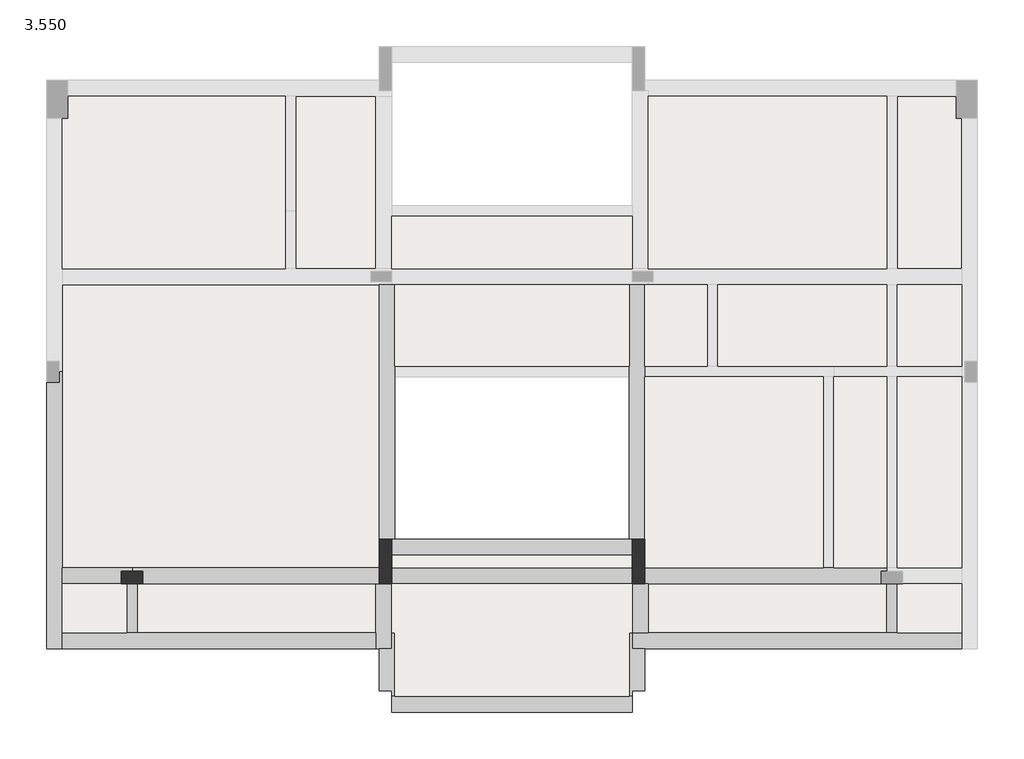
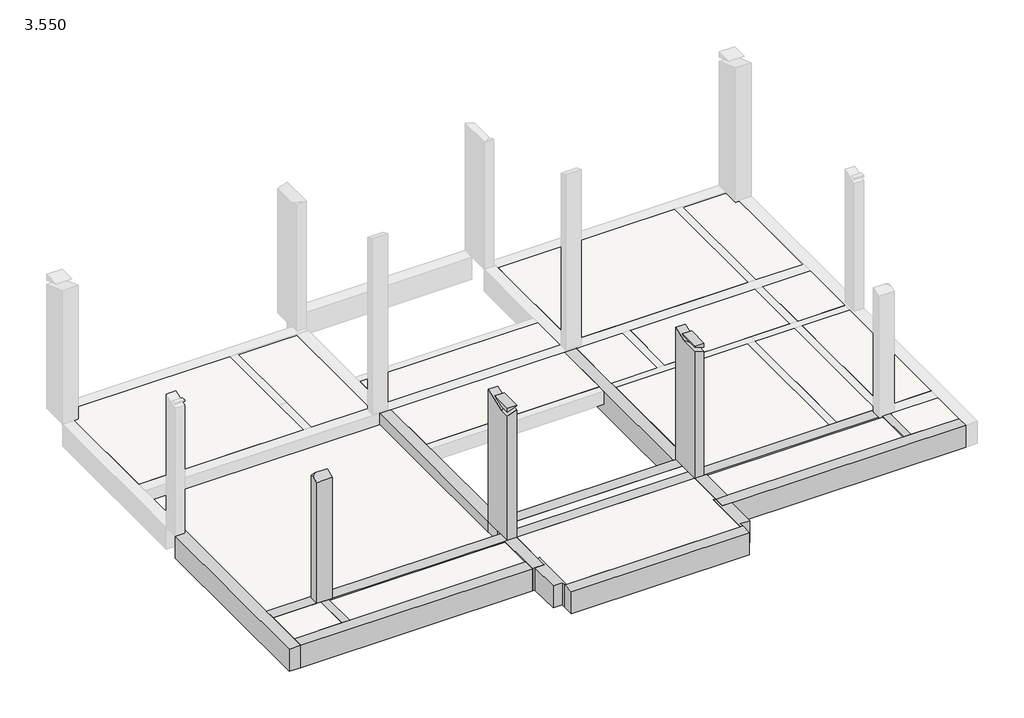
# One storey, part 1 of 2: 19 slabs, 17 beams, 3 columns.
"""IFC4 building model written with IfcOpenShell, lengths in millimetres."""

from ifc_helpers import new_model, si_unit, frame, origin, place, context, project, spatial, polyline, outline, extrude, faceted_brep, element, save

model = new_model("IFC4")

# Units and contexts
model_context = context("Model", 3, world=origin())
ifc_project = project(units=[si_unit("LENGTHUNIT", "METRE", prefix="MILLI")], contexts=[model_context])

# Site, building, storey
site = spatial("IfcSite", under=ifc_project)
building = spatial("IfcBuilding", under=site)
storey = spatial("IfcBuildingStorey", under=building, Name="3.550", Elevation=3550.0)

# Beams
placement = place(None, origin())
element("IfcBeam", 1, ObjectType="混凝土 - 矩形梁 : 200 x 350mm", at=placement, inside=storey, context=model_context, shape_type="Brep", body=[
    faceted_brep([(-11718.804129, -3939.7578909, 3550.0), (-11718.804129, -3939.7578909, 3520.0), (-11718.804129, -3939.7578909, 3420.0), (-11718.804129, -3939.7578909, 3200.0), (-11918.804129, -3939.7578909, 3200.0), (-11918.804129, -3939.7578909, 3450.0), (-11918.804129, -3939.7578909, 3550.0), (-11918.804129, -4869.7578909, 3550.0), (-11718.804129, -4869.7578909, 3550.0), (-11918.804129, -4869.7578909, 3200.0), (-11918.804129, -4869.7578909, 3450.0), (-11718.804129, -4869.7578909, 3200.0), (-11718.804129, -4869.7578909, 3520.0), (-11718.804129, -4869.7578909, 3420.0)], [[[0, 1, 2, 3, 4, 5, 6]], [[0, 6, 7, 8]], [[6, 5, 4, 9, 10, 7]], [[4, 3, 11, 9]], [[3, 2, 1, 0, 8, 12, 13, 11]], [[8, 7, 10, 9, 11, 13, 12]]]),
])
element("IfcBeam", 2, ObjectType="混凝土 - 矩形梁 : 200 x 350mm", at=placement, inside=storey, context=model_context, shape_type="Brep", body=[
    faceted_brep([(2681.195871, -3939.7578909, 3550.0), (2481.195871, -3939.7578909, 3550.0), (2481.195871, -4869.7578909, 3550.0), (2681.195871, -4869.7578909, 3550.0), (2681.195871, -3939.7578909, 3200.0), (2681.195871, -3939.7578909, 3450.0), (2681.195871, -4869.7578909, 3450.0), (2681.195871, -4869.7578909, 3200.0), (2481.195871, -3939.7578909, 3200.0), (2481.195871, -4869.7578909, 3200.0), (2481.195871, -3939.7578909, 3520.0), (2481.195871, -3939.7578909, 3420.0), (2481.195871, -4869.7578909, 3420.0), (2481.195871, -4869.7578909, 3520.0)], [[[0, 1, 2, 3]], [[4, 5, 0, 3, 6, 7]], [[8, 4, 7, 9]], [[1, 10, 11, 8, 9, 12, 13, 2]], [[1, 0, 5, 4, 8, 11, 10]], [[3, 2, 13, 12, 9, 7, 6]]]),
])
element("IfcBeam", 3, ObjectType="混凝土 - 矩形梁 : 300 x 600mm", at=placement, inside=storey, context=model_context, shape_type="Brep", body=[
    faceted_brep([(-2338.804129, -4869.7578909, 3550.0), (-2338.804129, -5169.7578909, 3550.0), (-2098.804129, -5169.7578909, 3550.0), (3901.195871, -5169.7578909, 3550.0), (3901.195871, -4869.7578909, 3550.0), (2681.195871, -4869.7578909, 3550.0), (2481.195871, -4869.7578909, 3550.0), (-2038.804129, -4869.7578909, 3550.0), (-2338.804129, -4869.7578909, 2950.0), (3901.195871, -4869.7578909, 3450.0), (3901.195871, -4869.7578909, 2950.0), (-2038.804129, -4869.7578909, 2950.0), (-2338.804129, -5169.7578909, 2950.0), (3901.195871, -5169.7578909, 2950.0), (-2098.804129, -5169.7578909, 2950.0)], [[[0, 1, 2, 3, 4, 5, 6, 7]], [[8, 0, 7, 6, 5, 4, 9, 10, 11]], [[12, 8, 11, 10, 13, 14]], [[1, 12, 14, 13, 3, 2]], [[4, 3, 13, 10, 9]], [[1, 0, 8, 12]]]),
])
element("IfcBeam", 4, ObjectType="混凝土 - 矩形梁 : 300 x 600mm", at=placement, inside=storey, context=model_context, shape_type="Brep", body=[
    faceted_brep([(-13138.804129, -5169.7578909, 3550.0), (-13138.804129, -4869.7578909, 3550.0), (-13138.804129, -3939.7578909, 3550.0), (-13138.804129, -3639.7578909, 3550.0), (-13138.804129, 80.2421091, 3550.0), (-13198.804129, 80.2421091, 3550.0), (-13198.804129, -119.7578909, 3550.0), (-13438.804129, -119.7578909, 3550.0), (-13438.804129, -5169.7578909, 3550.0), (-13138.804129, -5169.7578909, 2950.0), (-13138.804129, -4869.7578909, 2950.0), (-13138.804129, -3939.7578909, 2950.0), (-13138.804129, -3639.7578909, 2950.0), (-13138.804129, 80.2421091, 2950.0), (-13438.804129, -5169.7578909, 2950.0), (-13438.804129, -119.7578909, 2950.0), (-13198.804129, -119.7578909, 2950.0), (-13198.804129, 80.2421091, 2950.0)], [[[0, 1, 2, 3, 4, 5, 6, 7, 8]], [[4, 3, 2, 1, 0, 9, 10, 11, 12, 13]], [[13, 12, 11, 10, 9, 14, 15, 16, 17]], [[14, 8, 7, 15]], [[0, 8, 14, 9]], [[16, 6, 5, 17]], [[6, 16, 15, 7]], [[4, 13, 17, 5]]]),
])
element("IfcBeam", 5, ObjectType="混凝土 - 矩形梁 : 300 x 600mm", at=placement, inside=storey, context=model_context, shape_type="Brep", body=[
    faceted_brep([(-2098.804129, -3639.7578909, 3550.0), (-2098.804129, -3939.7578909, 3550.0), (-2038.804129, -3939.7578909, 3550.0), (2381.195871, -3939.7578909, 3550.0), (2381.195871, -3699.7578909, 3550.0), (2481.195871, -3699.7578909, 3550.0), (2481.195871, -3639.7578909, 3550.0), (1481.195871, -3639.7578909, 3550.0), (1281.195871, -3639.7578909, 3550.0), (-2098.804129, -3639.7578909, 2950.0), (-2098.804129, -3639.7578909, 3450.0), (2481.195871, -3639.7578909, 3450.0), (2481.195871, -3639.7578909, 2950.0), (-2098.804129, -3939.7578909, 2950.0), (2481.195871, -3699.7578909, 2950.0), (2381.195871, -3699.7578909, 2950.0), (2381.195871, -3939.7578909, 2950.0), (-2038.804129, -3939.7578909, 2950.0)], [[[0, 1, 2, 3, 4, 5, 6, 7, 8]], [[9, 10, 0, 8, 7, 6, 11, 12]], [[13, 9, 12, 14, 15, 16, 17]], [[1, 13, 17, 16, 3, 2]], [[1, 0, 10, 9, 13]], [[4, 15, 14, 5]], [[15, 4, 3, 16]], [[12, 11, 6, 5, 14]]]),
])
element("IfcBeam", 6, ObjectType="混凝土 - 矩形梁 : 300 x 600mm", at=placement, inside=storey, context=model_context, shape_type="Brep", body=[
    faceted_brep([(-6898.804129, -3399.7578909, 3550.0), (-6898.804129, -3099.7578909, 3550.0), (-6898.804129, -3099.7578909, 2950.0), (-6898.804129, -3399.7578909, 2950.0), (-6898.804129, -3399.7578909, 3450.0), (-2338.804129, -3399.7578909, 3550.0), (-2338.804129, -3099.7578909, 3550.0), (-2398.804129, -3099.7578909, 3550.0), (-6838.804129, -3099.7578909, 3550.0), (-2338.804129, -3099.7578909, 2950.0), (-2398.804129, -3099.7578909, 2950.0), (-6838.804129, -3099.7578909, 2950.0), (-2338.804129, -3399.7578909, 2950.0), (-2338.804129, -3399.7578909, 3450.0)], [[[0, 1, 2, 3, 4]], [[1, 0, 5, 6, 7, 8]], [[2, 1, 8, 7, 6, 9, 10, 11]], [[3, 2, 11, 10, 9, 12]], [[0, 4, 3, 12, 13, 5]], [[5, 13, 12, 9, 6]]]),
])
element("IfcBeam", 7, ObjectType="混凝土 - 矩形梁 : 300 x 600mm", at=placement, inside=storey, context=model_context, shape_type="Brep", body=[
    faceted_brep([(-7138.804129, -3639.7578909, 3550.0), (-11818.804129, -3639.7578909, 3550.0), (-11818.804129, -3699.7578909, 3550.0), (-11618.804129, -3699.7578909, 3550.0), (-11618.804129, -3939.7578909, 3550.0), (-7198.804129, -3939.7578909, 3550.0), (-7138.804129, -3939.7578909, 3550.0), (-11818.804129, -3639.7578909, 2950.0), (-7138.804129, -3639.7578909, 3250.0), (-7138.804129, -3639.7578909, 3090.0), (-7138.804129, -3639.7578909, 2950.0), (-7138.804129, -3939.7578909, 2950.0), (-7198.804129, -3939.7578909, 2950.0), (-11618.804129, -3939.7578909, 2950.0), (-11618.804129, -3699.7578909, 2950.0), (-11818.804129, -3699.7578909, 2950.0)], [[[0, 1, 2, 3, 4, 5, 6]], [[7, 1, 0, 8, 9, 10]], [[7, 10, 11, 12, 13, 14, 15]], [[11, 6, 5, 4, 13, 12]], [[1, 7, 15, 2]], [[0, 6, 11, 10, 9, 8]], [[14, 3, 2, 15]], [[3, 14, 13, 4]]]),
])
element("IfcBeam", 8, ObjectType="混凝土 - 矩形梁 : 300 x 600mm", at=placement, inside=storey, context=model_context, shape_type="Brep", body=[
    faceted_brep([(-13138.804129, -3639.7578909, 3550.0), (-13138.804129, -3939.7578909, 3550.0), (-12018.804129, -3939.7578909, 3550.0), (-12018.804129, -3699.7578909, 3550.0), (-11818.804129, -3699.7578909, 3550.0), (-11818.804129, -3639.7578909, 3550.0), (-13138.804129, -3639.7578909, 2950.0), (-13138.804129, -3639.7578909, 3090.0), (-13138.804129, -3639.7578909, 3250.0), (-11818.804129, -3639.7578909, 2950.0), (-13138.804129, -3939.7578909, 2950.0), (-11818.804129, -3699.7578909, 2950.0), (-12018.804129, -3699.7578909, 2950.0), (-12018.804129, -3939.7578909, 2950.0), (-13138.804129, -3939.7578909, 3450.0)], [[[0, 1, 2, 3, 4, 5]], [[6, 7, 8, 0, 5, 9]], [[10, 6, 9, 11, 12, 13]], [[1, 14, 10, 13, 2]], [[1, 0, 8, 7, 6, 10, 14]], [[9, 5, 4, 11]], [[3, 12, 11, 4]], [[12, 3, 2, 13]]]),
])
element("IfcBeam", 9, ObjectType="混凝土 - 矩形梁 : 300 x 600mm", at=placement, inside=storey, context=model_context, shape_type="Brep", body=[
    faceted_brep([(-6838.804129, -3099.7578909, 3550.0), (-6898.804129, -3099.7578909, 3550.0), (-7138.804129, -3099.7578909, 3550.0), (-7138.804129, -3099.7578909, 2950.0), (-6898.804129, -3099.7578909, 2950.0), (-6838.804129, -3099.7578909, 2950.0), (-6838.804129, -19.7578909, 3550.0), (-6838.804129, 180.2421091, 3550.0), (-6838.804129, 1730.2421091, 3550.0), (-6898.804129, 1730.2421091, 3550.0), (-7138.804129, 1730.2421091, 3550.0), (-7138.804129, 1730.2421091, 3250.0), (-7138.804129, 1730.2421091, 3090.0), (-7138.804129, 1730.2421091, 2950.0), (-6898.804129, 1730.2421091, 2950.0), (-6838.804129, 1730.2421091, 2950.0), (-6838.804129, 1730.2421091, 3450.0)], [[[0, 1, 2, 3, 4, 5]], [[2, 1, 0, 6, 7, 8, 9, 10]], [[3, 2, 10, 11, 12, 13]], [[5, 4, 3, 13, 14, 15]], [[0, 5, 15, 16, 8, 7, 6]], [[10, 9, 8, 16, 15, 14, 13, 12, 11]]]),
])
element("IfcBeam", 10, ObjectType="混凝土 - 矩形梁 : 300 x 600mm", at=placement, inside=storey, context=model_context, shape_type="Brep", body=[
    faceted_brep([(-2098.804129, -3099.7578909, 3550.0), (-2338.804129, -3099.7578909, 3550.0), (-2398.804129, -3099.7578909, 3550.0), (-2398.804129, -3099.7578909, 2950.0), (-2338.804129, -3099.7578909, 2950.0), (-2098.804129, -3099.7578909, 2950.0), (-2098.804129, -19.7578909, 3550.0), (-2098.804129, 180.2421091, 3550.0), (-2098.804129, 1730.2421091, 3550.0), (-2398.804129, 1730.2421091, 3550.0), (-2398.804129, 180.2421091, 3550.0), (-2398.804129, -19.7578909, 3550.0), (-2098.804129, 1730.2421091, 2950.0), (-2098.804129, 1730.2421091, 3450.0), (-2398.804129, 1730.2421091, 2950.0), (-2398.804129, 1730.2421091, 3450.0)], [[[0, 1, 2, 3, 4, 5]], [[2, 1, 0, 6, 7, 8, 9, 10, 11]], [[0, 5, 12, 13, 8, 7, 6]], [[5, 4, 3, 14, 12]], [[3, 2, 11, 10, 9, 15, 14]], [[9, 8, 13, 12, 14, 15]]]),
])
element("IfcBeam", 11, ObjectType="混凝土 - 矩形梁 : 300 x 600mm", at=placement, inside=storey, context=model_context, shape_type="Brep", body=[
    faceted_brep([(-7198.804129, -5169.7578909, 3550.0), (-7138.804129, -5169.7578909, 3550.0), (-6898.804129, -5169.7578909, 3550.0), (-6898.804129, -4869.7578909, 3550.0), (-6898.804129, -3939.7578909, 3550.0), (-7138.804129, -3939.7578909, 3550.0), (-7198.804129, -3939.7578909, 3550.0), (-7198.804129, -4869.7578909, 3550.0), (-6898.804129, -5169.7578909, 2950.0), (-6898.804129, -4869.7578909, 2950.0), (-6898.804129, -3939.7578909, 2950.0), (-6898.804129, -3939.7578909, 3450.0), (-7138.804129, -5169.7578909, 2950.0), (-7198.804129, -5169.7578909, 2950.0), (-7198.804129, -4869.7578909, 2950.0), (-7198.804129, -3939.7578909, 2950.0), (-7138.804129, -3939.7578909, 2950.0), (-7198.804129, -3939.7578909, 3520.0), (-7198.804129, -3939.7578909, 3420.0)], [[[0, 1, 2, 3, 4, 5, 6, 7]], [[2, 8, 9, 10, 11, 4, 3]], [[8, 12, 13, 14, 15, 16, 10, 9]], [[13, 0, 7, 6, 17, 18, 15, 14]], [[6, 5, 4, 11, 10, 16, 15, 18, 17]], [[2, 1, 0, 13, 12, 8]]]),
])
element("IfcBeam", 12, ObjectType="混凝土 - 矩形梁 : 300 x 600mm", at=placement, inside=storey, context=model_context, shape_type="Brep", body=[
    faceted_brep([(-2038.804129, -3939.7578909, 3550.0), (-2098.804129, -3939.7578909, 3550.0), (-2338.804129, -3939.7578909, 3550.0), (-2338.804129, -4869.7578909, 3550.0), (-2038.804129, -4869.7578909, 3550.0), (-2038.804129, -3939.7578909, 2950.0), (-2038.804129, -3939.7578909, 3420.0), (-2038.804129, -3939.7578909, 3520.0), (-2038.804129, -4869.7578909, 3520.0), (-2038.804129, -4869.7578909, 3420.0), (-2038.804129, -4869.7578909, 2950.0), (-2338.804129, -3939.7578909, 2950.0), (-2098.804129, -3939.7578909, 2950.0), (-2338.804129, -4869.7578909, 2950.0), (-2338.804129, -3939.7578909, 3450.0), (-2338.804129, -4869.7578909, 3450.0)], [[[0, 1, 2, 3, 4]], [[5, 6, 7, 0, 4, 8, 9, 10]], [[11, 12, 5, 10, 13]], [[2, 14, 11, 13, 15, 3]], [[2, 1, 0, 7, 6, 5, 12, 11, 14]], [[4, 3, 15, 13, 10, 9, 8]]]),
])
element("IfcBeam", 13, ObjectType="混凝土 - 矩形梁 : 300 x 600mm", at=placement, inside=storey, context=model_context, shape_type="Brep", body=[
    faceted_brep([(-2338.804129, -6069.7578909, 3550.0), (-2338.804129, -6369.7578909, 3550.0), (-2338.804129, -6369.7578909, 2950.0), (-2338.804129, -6069.7578909, 2950.0), (-6898.804129, -6069.7578909, 3550.0), (-6898.804129, -6069.7578909, 2950.0), (-6898.804129, -6369.7578909, 2950.0), (-6898.804129, -6369.7578909, 3550.0), (-2398.804129, -6069.7578909, 3550.0), (-6838.804129, -6069.7578909, 3550.0), (-6838.804129, -6069.7578909, 2950.0), (-2398.804129, -6069.7578909, 2950.0)], [[[0, 1, 2, 3]], [[4, 5, 6, 7]], [[1, 0, 8, 9, 4, 7]], [[2, 1, 7, 6]], [[3, 2, 6, 5, 10, 11]], [[0, 3, 11, 10, 5, 4, 9, 8]]]),
])
element("IfcBeam", 14, ObjectType="混凝土 - 矩形梁 : 300 x 600mm", at=placement, inside=storey, context=model_context, shape_type="Brep", body=[
    faceted_brep([(-2098.804129, -5169.7578909, 3550.0), (-2338.804129, -5169.7578909, 3550.0), (-2338.804129, -4869.7578909, 3550.0), (-2398.804129, -4869.7578909, 3550.0), (-2398.804129, -6069.7578909, 3550.0), (-2338.804129, -6069.7578909, 3550.0), (-2338.804129, -5969.7578909, 3550.0), (-2098.804129, -5969.7578909, 3550.0), (-2098.804129, -5169.7578909, 2950.0), (-2098.804129, -5969.7578909, 2950.0), (-2338.804129, -5169.7578909, 2950.0), (-2338.804129, -5969.7578909, 2950.0), (-2338.804129, -6069.7578909, 2950.0), (-2398.804129, -6069.7578909, 2950.0), (-2398.804129, -4869.7578909, 2950.0), (-2338.804129, -4869.7578909, 2950.0), (-2398.804129, -4869.7578909, 3450.0), (-2398.804129, -6069.7578909, 3450.0), (-2338.804129, -4869.7578909, 3450.0)], [[[0, 1, 2, 3, 4, 5, 6, 7]], [[8, 0, 7, 9]], [[10, 8, 9, 11, 12, 13, 14, 15]], [[4, 3, 16, 14, 13, 17]], [[3, 2, 18, 15, 14, 16]], [[1, 0, 8, 10]], [[5, 4, 17, 13, 12]], [[11, 6, 5, 12]], [[6, 11, 9, 7]], [[1, 10, 15, 18, 2]]]),
])
element("IfcBeam", 15, ObjectType="混凝土 - 矩形梁 : 300 x 600mm", at=placement, inside=storey, context=model_context, shape_type="Brep", body=[
    faceted_brep([(-6898.804129, -6069.7578909, 3550.0), (-6838.804129, -6069.7578909, 3550.0), (-6838.804129, -4869.7578909, 3550.0), (-6898.804129, -4869.7578909, 3550.0), (-6898.804129, -5169.7578909, 3550.0), (-7138.804129, -5169.7578909, 3550.0), (-7138.804129, -5969.7578909, 3550.0), (-6898.804129, -5969.7578909, 3550.0), (-6838.804129, -6069.7578909, 3450.0), (-6838.804129, -6069.7578909, 2950.0), (-6838.804129, -4869.7578909, 2950.0), (-6838.804129, -4869.7578909, 3450.0), (-6898.804129, -6069.7578909, 2950.0), (-6898.804129, -5969.7578909, 2950.0), (-7138.804129, -5969.7578909, 2950.0), (-7138.804129, -5169.7578909, 2950.0), (-6898.804129, -5169.7578909, 2950.0), (-6898.804129, -4869.7578909, 2950.0), (-6898.804129, -4869.7578909, 3450.0)], [[[0, 1, 2, 3, 4, 5, 6, 7]], [[2, 1, 8, 9, 10, 11]], [[9, 12, 13, 14, 15, 16, 17, 10]], [[14, 6, 5, 15]], [[3, 2, 11, 10, 17, 18]], [[1, 0, 12, 9, 8]], [[7, 13, 12, 0]], [[13, 7, 6, 14]], [[5, 4, 16, 15]], [[16, 4, 3, 18, 17]]]),
])
element("IfcBeam", 16, ObjectType="混凝土 - 矩形梁 : 300 x 600mm", at=placement, inside=storey, context=model_context, shape_type="Brep", body=[
    faceted_brep([(-13138.804129, -4869.7578909, 3550.0), (-13138.804129, -5169.7578909, 3550.0), (-7198.804129, -5169.7578909, 3550.0), (-7198.804129, -4869.7578909, 3550.0), (-11718.804129, -4869.7578909, 3550.0), (-11918.804129, -4869.7578909, 3550.0), (-13138.804129, -4869.7578909, 2950.0), (-13138.804129, -4869.7578909, 3450.0), (-7198.804129, -4869.7578909, 3520.0), (-7198.804129, -4869.7578909, 3420.0), (-7198.804129, -4869.7578909, 2950.0), (-13138.804129, -5169.7578909, 2950.0), (-7198.804129, -5169.7578909, 2950.0)], [[[0, 1, 2, 3, 4, 5]], [[6, 7, 0, 5, 4, 3, 8, 9, 10]], [[11, 6, 10, 12]], [[1, 11, 12, 2]], [[1, 0, 7, 6, 11]], [[3, 2, 12, 10, 9, 8]]]),
])
element("IfcBeam", 17, ObjectType="混凝土 - 矩形梁 : 300 x 600mm", at=placement, inside=storey, context=model_context, shape_type="Brep", body=[
    faceted_brep([(-6898.804129, -3639.7578909, 3550.0), (-6898.804129, -3939.7578909, 3550.0), (-2338.804129, -3939.7578909, 3550.0), (-2338.804129, -3639.7578909, 3550.0), (-6898.804129, -3939.7578909, 3450.0), (-6898.804129, -3939.7578909, 2950.0), (-2338.804129, -3939.7578909, 2950.0), (-2338.804129, -3939.7578909, 3450.0), (-6898.804129, -3639.7578909, 2950.0), (-2338.804129, -3639.7578909, 2950.0), (-6898.804129, -3639.7578909, 3450.0), (-2338.804129, -3639.7578909, 3450.0)], [[[0, 1, 2, 3]], [[1, 4, 5, 6, 7, 2]], [[5, 8, 9, 6]], [[8, 10, 0, 3, 11, 9]], [[1, 0, 10, 8, 5, 4]], [[3, 2, 7, 6, 9, 11]]]),
])

# Columns
element("IfcColumn", 18, ObjectType="混凝土 - 矩形 - 柱 : 240 x 400mm", at=placement, inside=storey, context=model_context, shape_type="Brep", body=[
    faceted_brep([(-12018.804129, -3699.7578909, 3550.0), (-11618.804129, -3699.7578909, 3550.0), (-11618.804129, -3939.7578909, 3550.0), (-12018.804129, -3939.7578909, 3550.0), (-12018.804129, -3699.7578909, 6883.2645218), (-11938.804129, -3699.7578909, 6912.3821406), (-11618.804129, -3699.7578909, 6912.3821406), (-11618.804129, -3939.7578909, 6825.0292843), (-12018.804129, -3939.7578909, 6825.0292843), (-12018.804129, -3779.7578909, 6883.2645218)], [[[0, 1, 2, 3]], [[1, 0, 4, 5, 6]], [[2, 1, 6, 7]], [[3, 2, 7, 8]], [[0, 3, 8, 9, 4]], [[5, 9, 8, 7, 6]], [[9, 5, 4]]]),
])
element("IfcColumn", 19, ObjectType="混凝土 - 矩形 - 柱 : 240 x 840mm", at=placement, inside=storey, context=model_context, shape_type="Brep", body=[
    faceted_brep([(-6898.804129, -3099.7578909, 3550.0), (-6898.804129, -3939.7578909, 3550.0), (-7138.804129, -3939.7578909, 3550.0), (-7138.804129, -3099.7578909, 3550.0), (-7138.804129, -3099.7578909, 7130.7642811), (-6898.804129, -3099.7578909, 7130.7642811), (-7138.804129, -3699.7578909, 6912.3821406), (-6898.804129, -3459.7578909, 6999.7349968), (-7138.804129, -3939.7578909, 6912.3821406), (-6898.804129, -3939.7578909, 6999.7349968)], [[[0, 1, 2, 3]], [[0, 3, 4, 5]], [[6, 7, 5, 4]], [[7, 6, 8, 9]], [[1, 0, 5, 7, 9]], [[2, 1, 9, 8]], [[3, 2, 8, 6, 4]]]),
    faceted_brep([(-6898.804129, -3939.7578909, 7130.7642811), (-6898.804129, -3939.7578909, 7106.152774), (-6898.804129, -3459.7578909, 7106.152774), (-6898.804129, -3392.1383309, 7130.7642811), (-7138.804129, -3939.7578909, 7130.7642811), (-7138.804129, -3939.7578909, 7018.7999178), (-7138.804129, -3392.1383309, 7130.7642811), (-7138.804129, -3699.7578909, 7018.7999178)], [[[0, 1, 2, 3]], [[0, 4, 5, 1]], [[5, 4, 6, 7]], [[4, 0, 3, 6]], [[2, 7, 6, 3]], [[7, 2, 1, 5]]]),
])
element("IfcColumn", 20, ObjectType="混凝土 - 矩形 - 柱 : 240 x 840mm", at=placement, inside=storey, context=model_context, shape_type="Brep", body=[
    faceted_brep([(-2098.804129, -3099.7578909, 3550.0), (-2098.804129, -3939.7578909, 3550.0), (-2338.804129, -3939.7578909, 3550.0), (-2338.804129, -3099.7578909, 3550.0), (-2338.804129, -3099.7578909, 7130.7642811), (-2098.804129, -3099.7578909, 7130.7642811), (-2098.804129, -3699.7578909, 6912.3821406), (-2338.804129, -3459.7578909, 6999.7349968), (-2338.804129, -3939.7578909, 6999.7349968), (-2098.804129, -3939.7578909, 6912.3821406)], [[[0, 1, 2, 3]], [[0, 3, 4, 5]], [[6, 7, 8, 9]], [[7, 6, 5, 4]], [[1, 0, 5, 6, 9]], [[2, 1, 9, 8]], [[3, 2, 8, 7, 4]]]),
    faceted_brep([(-2098.804129, -3939.7578909, 7130.7642811), (-2098.804129, -3939.7578909, 7018.7999178), (-2098.804129, -3699.7578909, 7018.7999178), (-2098.804129, -3392.1383309, 7130.7642811), (-2338.804129, -3939.7578909, 7130.7642811), (-2338.804129, -3939.7578909, 7106.152774), (-2338.804129, -3392.1383309, 7130.7642811), (-2338.804129, -3459.7578909, 7106.152774)], [[[0, 1, 2, 3]], [[0, 4, 5, 1]], [[5, 4, 6, 7]], [[4, 0, 3, 6]], [[7, 2, 1, 5]], [[2, 7, 6, 3]]]),
])

# Slabs
element("IfcSlab", 21, ObjectType="常规 - 100mm", at=placement, inside=storey, context=model_context, shape_type="Brep", body=[
    faceted_brep([(-8918.804129, 5300.2421091, 3450.0), (-8918.804129, 2030.2421091, 3450.0), (-13138.804129, 2030.2421091, 3450.0), (-13138.804129, 4880.2421091, 3450.0), (-13038.804129, 4880.2421091, 3450.0), (-13038.804129, 5300.2421091, 3450.0), (-8918.804129, 5300.2421091, 3550.0), (-13038.804129, 5300.2421091, 3550.0), (-13038.804129, 4880.2421091, 3550.0), (-13138.804129, 4880.2421091, 3550.0), (-13138.804129, 2030.2421091, 3550.0), (-8918.804129, 2030.2421091, 3550.0), (-8918.804129, 3120.2421091, 3550.0)], [[[0, 1, 2, 3, 4, 5]], [[6, 7, 8, 9, 10, 11, 12]], [[1, 0, 6, 12, 11]], [[2, 1, 11, 10]], [[3, 2, 10, 9]], [[4, 3, 9, 8]], [[5, 4, 8, 7]], [[0, 5, 7, 6]]]),
])
element("IfcSlab", 22, ObjectType="常规 - 100mm", at=placement, inside=storey, context=model_context, shape_type="SweptSolid", body=[
    extrude(outline(polyline([(-7198.804129, 5300.2421091), (-7198.804129, 2030.2421091), (-8718.804129, 2030.2421091), (-8718.804129, 5300.2421091), (-7198.804129, 5300.2421091)])), frame((0.0, 0.0, 3420.0), z_axis=(0.0, 0.0, 1.0), x_axis=(1.0, 0.0, 0.0)), (0.0, 0.0, 1.0), 100.0),
])
element("IfcSlab", 23, ObjectType="常规 - 160mm", at=placement, inside=storey, context=model_context, shape_type="SweptSolid", body=[
    extrude(outline(polyline([(-7138.804129, 1730.2421091), (-7138.804129, -3639.7578909), (-13138.804129, -3639.7578909), (-13138.804129, 1730.2421091), (-7138.804129, 1730.2421091)])), frame((0.0, 0.0, 3090.0), z_axis=(0.0, 0.0, 1.0), x_axis=(1.0, 0.0, 0.0)), (0.0, 0.0, 1.0), 160.0),
])
element("IfcSlab", 24, ObjectType="常规 - 100mm", at=placement, inside=storey, context=model_context, shape_type="Brep", body=[
    faceted_brep([(-11918.804129, -3939.7578909, 3450.0), (-11918.804129, -4869.7578909, 3450.0), (-13138.804129, -4869.7578909, 3450.0), (-13138.804129, -3939.7578909, 3450.0), (-11918.804129, -3939.7578909, 3550.0), (-12018.804129, -3939.7578909, 3550.0), (-13138.804129, -3939.7578909, 3550.0), (-13138.804129, -4869.7578909, 3550.0), (-11918.804129, -4869.7578909, 3550.0)], [[[0, 1, 2, 3]], [[4, 5, 6, 7, 8]], [[1, 0, 4, 8]], [[2, 1, 8, 7]], [[3, 2, 7, 6]], [[0, 3, 6, 5, 4]]]),
])
element("IfcSlab", 25, ObjectType="常规 - 100mm", at=placement, inside=storey, context=model_context, shape_type="SweptSolid", body=[
    extrude(outline(polyline([(-7198.804129, -3939.7578909), (-7198.804129, -4869.7578909), (-11718.804129, -4869.7578909), (-11718.804129, -3939.7578909), (-7198.804129, -3939.7578909)])), frame((0.0, 0.0, 3420.0), z_axis=(0.0, 0.0, 1.0), x_axis=(1.0, 0.0, 0.0)), (0.0, 0.0, 1.0), 100.0),
])
element("IfcSlab", 26, ObjectType="常规 - 100mm", at=placement, inside=storey, context=model_context, shape_type="SweptSolid", body=[
    extrude(outline(polyline([(-2338.804129, 3020.2421091), (-2338.804129, 2030.2421091), (-6898.804129, 2030.2421091), (-6898.804129, 3020.2421091), (-2338.804129, 3020.2421091)])), frame((0.0, 0.0, 3450.0), z_axis=(0.0, 0.0, 1.0), x_axis=(1.0, 0.0, 0.0)), (0.0, 0.0, 1.0), 100.0),
])
element("IfcSlab", 27, ObjectType="常规 - 100mm", at=placement, inside=storey, context=model_context, shape_type="SweptSolid", body=[
    extrude(outline(polyline([(-2398.804129, 1730.2421091), (-2398.804129, 180.2421091), (-6838.804129, 180.2421091), (-6838.804129, 1730.2421091), (-2398.804129, 1730.2421091)])), frame((0.0, 0.0, 3450.0), z_axis=(0.0, 0.0, 1.0), x_axis=(1.0, 0.0, 0.0)), (0.0, 0.0, 1.0), 100.0),
])
element("IfcSlab", 28, ObjectType="常规 - 100mm", at=placement, inside=storey, context=model_context, shape_type="SweptSolid", body=[
    extrude(outline(polyline([(-2338.804129, -3399.7578909), (-2338.804129, -3639.7578909), (-6898.804129, -3639.7578909), (-6898.804129, -3399.7578909), (-2338.804129, -3399.7578909)])), frame((0.0, 0.0, 3450.0), z_axis=(0.0, 0.0, 1.0), x_axis=(1.0, 0.0, 0.0)), (0.0, 0.0, 1.0), 100.0),
])
element("IfcSlab", 29, ObjectType="常规 - 100mm", at=placement, inside=storey, context=model_context, shape_type="SweptSolid", body=[
    extrude(outline(polyline([(-2338.804129, -3939.7578909), (-2338.804129, -4869.7578909), (-2398.804129, -4869.7578909), (-2398.804129, -6069.7578909), (-6838.804129, -6069.7578909), (-6838.804129, -4869.7578909), (-6898.804129, -4869.7578909), (-6898.804129, -3939.7578909), (-2338.804129, -3939.7578909)])), frame((0.0, 0.0, 3450.0), z_axis=(0.0, 0.0, 1.0), x_axis=(1.0, 0.0, 0.0)), (0.0, 0.0, 1.0), 100.0),
])
element("IfcSlab", 30, ObjectType="常规 - 100mm", at=placement, inside=storey, context=model_context, shape_type="SweptSolid", body=[
    extrude(outline(polyline([(2481.195871, 5300.2421091), (2481.195871, 2030.2421091), (-2038.804129, 2030.2421091), (-2038.804129, 5300.2421091), (2481.195871, 5300.2421091)])), frame((0.0, 0.0, 3450.0), z_axis=(0.0, 0.0, 1.0), x_axis=(1.0, 0.0, 0.0)), (0.0, 0.0, 1.0), 100.0),
])
element("IfcSlab", 31, ObjectType="常规 - 100mm", at=placement, inside=storey, context=model_context, shape_type="SweptSolid", body=[
    extrude(outline(polyline([(2681.195871, 5300.2421091), (3801.195871, 5300.2421091), (3801.195871, 4880.2421091), (3901.195871, 4880.2421091), (3901.195871, 2030.2421091), (2681.195871, 2030.2421091), (2681.195871, 5300.2421091)])), frame((0.0, 0.0, 3420.0), z_axis=(0.0, 0.0, 1.0), x_axis=(1.0, 0.0, 0.0)), (0.0, 0.0, 1.0), 100.0),
])
element("IfcSlab", 32, ObjectType="常规 - 100mm", at=placement, inside=storey, context=model_context, shape_type="Brep", body=[
    faceted_brep([(-918.804129, 1730.2421091, 3450.0), (-918.804129, 180.2421091, 3450.0), (-2098.804129, 180.2421091, 3450.0), (-2098.804129, 1730.2421091, 3450.0), (-918.804129, 1730.2421091, 3550.0), (-2038.804129, 1730.2421091, 3550.0), (-2098.804129, 1730.2421091, 3550.0), (-2098.804129, 180.2421091, 3550.0), (-918.804129, 180.2421091, 3550.0)], [[[0, 1, 2, 3]], [[4, 5, 6, 7, 8]], [[1, 0, 4, 8]], [[2, 1, 8, 7]], [[3, 2, 7, 6]], [[0, 3, 6, 5, 4]]]),
])
element("IfcSlab", 33, ObjectType="常规 - 100mm", at=placement, inside=storey, context=model_context, shape_type="Brep", body=[
    faceted_brep([(2481.195871, 1730.2421091, 3450.0), (2481.195871, 180.2421091, 3450.0), (-718.804129, 180.2421091, 3450.0), (-718.804129, 1730.2421091, 3450.0), (2481.195871, 1730.2421091, 3550.0), (-718.804129, 1730.2421091, 3550.0), (-718.804129, 180.2421091, 3550.0), (1481.195871, 180.2421091, 3550.0), (2481.195871, 180.2421091, 3550.0)], [[[0, 1, 2, 3]], [[4, 5, 6, 7, 8]], [[1, 0, 4, 8]], [[2, 1, 8, 7, 6]], [[3, 2, 6, 5]], [[0, 3, 5, 4]]]),
])
element("IfcSlab", 34, ObjectType="常规 - 100mm", at=placement, inside=storey, context=model_context, shape_type="SweptSolid", body=[
    extrude(outline(polyline([(3901.195871, 1730.2421091), (3901.195871, 180.2421091), (2681.195871, 180.2421091), (2681.195871, 1730.2421091), (3901.195871, 1730.2421091)])), frame((0.0, 0.0, 3450.0), z_axis=(0.0, 0.0, 1.0), x_axis=(1.0, 0.0, 0.0)), (0.0, 0.0, 1.0), 100.0),
])
element("IfcSlab", 35, ObjectType="常规 - 100mm", at=placement, inside=storey, context=model_context, shape_type="Brep", body=[
    faceted_brep([(1281.195871, -19.7578909, 3450.0), (1281.195871, -3639.7578909, 3450.0), (-2098.804129, -3639.7578909, 3450.0), (-2098.804129, -19.7578909, 3450.0), (1281.195871, -19.7578909, 3550.0), (-2098.804129, -19.7578909, 3550.0), (-2098.804129, -3099.7578909, 3550.0), (-2098.804129, -3639.7578909, 3550.0), (1281.195871, -3639.7578909, 3550.0)], [[[0, 1, 2, 3]], [[4, 5, 6, 7, 8]], [[1, 0, 4, 8]], [[2, 1, 8, 7]], [[3, 2, 7, 6, 5]], [[0, 3, 5, 4]]]),
])
element("IfcSlab", 36, ObjectType="常规 - 100mm", at=placement, inside=storey, context=model_context, shape_type="SweptSolid", body=[
    extrude(outline(polyline([(2481.195871, -19.7578909), (2481.195871, -3639.7578909), (1481.195871, -3639.7578909), (1481.195871, -19.7578909), (2481.195871, -19.7578909)])), frame((0.0, 0.0, 3450.0), z_axis=(0.0, 0.0, 1.0), x_axis=(1.0, 0.0, 0.0)), (0.0, 0.0, 1.0), 100.0),
])
element("IfcSlab", 37, ObjectType="常规 - 100mm", at=placement, inside=storey, context=model_context, shape_type="SweptSolid", body=[
    extrude(outline(polyline([(3901.195871, -19.7578909), (3901.195871, -3639.7578909), (2681.195871, -3639.7578909), (2681.195871, -19.7578909), (3901.195871, -19.7578909)])), frame((0.0, 0.0, 3450.0), z_axis=(0.0, 0.0, 1.0), x_axis=(1.0, 0.0, 0.0)), (0.0, 0.0, 1.0), 100.0),
])
element("IfcSlab", 38, ObjectType="常规 - 100mm", at=placement, inside=storey, context=model_context, shape_type="SweptSolid", body=[
    extrude(outline(polyline([(2481.195871, -3939.7578909), (2481.195871, -4869.7578909), (-2038.804129, -4869.7578909), (-2038.804129, -3939.7578909), (2481.195871, -3939.7578909)])), frame((0.0, 0.0, 3420.0), z_axis=(0.0, 0.0, 1.0), x_axis=(1.0, 0.0, 0.0)), (0.0, 0.0, 1.0), 100.0),
])
element("IfcSlab", 39, ObjectType="常规 - 100mm", at=placement, inside=storey, context=model_context, shape_type="Brep", body=[
    faceted_brep([(3901.195871, -3939.7578909, 3450.0), (3901.195871, -4869.7578909, 3450.0), (2681.195871, -4869.7578909, 3450.0), (2681.195871, -3939.7578909, 3450.0), (3901.195871, -3939.7578909, 3550.0), (2781.195871, -3939.7578909, 3550.0), (2681.195871, -3939.7578909, 3550.0), (2681.195871, -4869.7578909, 3550.0), (3901.195871, -4869.7578909, 3550.0)], [[[0, 1, 2, 3]], [[4, 5, 6, 7, 8]], [[1, 0, 4, 8]], [[2, 1, 8, 7]], [[3, 2, 7, 6]], [[0, 3, 6, 5, 4]]]),
])

save(model, "model.ifc")
